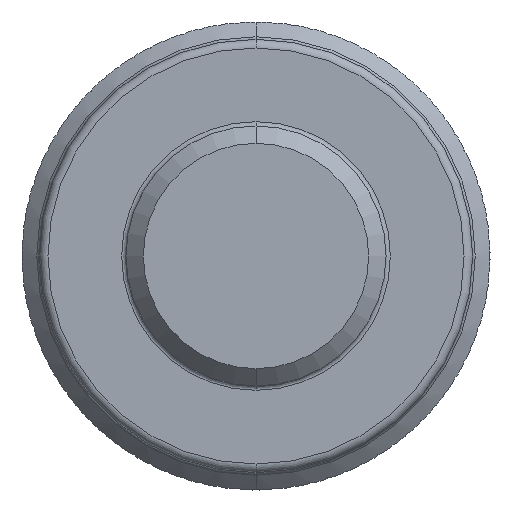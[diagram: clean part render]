
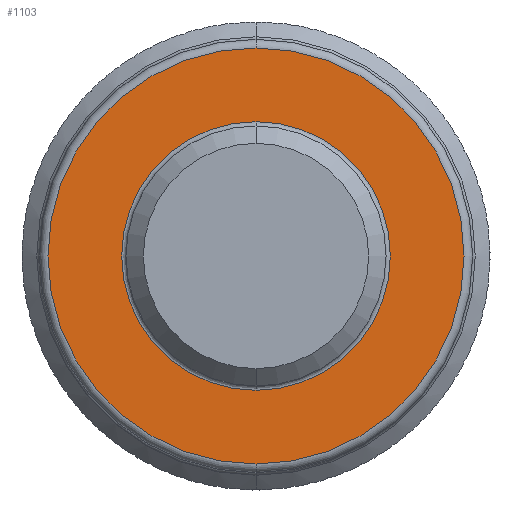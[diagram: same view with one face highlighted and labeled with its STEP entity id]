
A CAD part, front view. The second image highlights one B-rep face of the part: STEP entity #1103.
In plain terms, the highlighted planar face has unit normal (0, -1, 0).
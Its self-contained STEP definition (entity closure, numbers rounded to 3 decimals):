
#53 = CARTESIAN_POINT ( 'NONE',  ( 0., -3., 2.4 ) ) ;
#101 = EDGE_LOOP ( 'NONE', ( #9882, #1931 ) ) ;
#171 = ORIENTED_EDGE ( 'NONE', *, *, #2212, .T. ) ;
#248 = CARTESIAN_POINT ( 'NONE',  ( 1.5, -3., 0. ) ) ;
#261 = DIRECTION ( 'NONE',  ( 0., 0., -1. ) ) ;
#985 = CARTESIAN_POINT ( 'NONE',  ( 0., -3., 0. ) ) ;
#1103 = ADVANCED_FACE ( 'NONE', ( #3371, #5441 ), #2555, .T. ) ;
#1169 = VERTEX_POINT ( 'NONE', #53 ) ;
#1586 = CARTESIAN_POINT ( 'NONE',  ( 0., -3., 0. ) ) ;
#1626 = AXIS2_PLACEMENT_3D ( 'NONE', #6701, #6901, #5166 ) ;
#1651 = EDGE_CURVE ( 'NONE', #7058, #5138, #3111, .T. ) ;
#1931 = ORIENTED_EDGE ( 'NONE', *, *, #4201, .T. ) ;
#2212 = EDGE_CURVE ( 'NONE', #1169, #7399, #4339, .T. ) ;
#2487 = ORIENTED_EDGE ( 'NONE', *, *, #4885, .T. ) ;
#2555 = PLANE ( 'NONE',  #7555 ) ;
#2628 = DIRECTION ( 'NONE',  ( 0., 0., -1. ) ) ;
#2921 = CARTESIAN_POINT ( 'NONE',  ( 0., -3., 1.55 ) ) ;
#3040 = DIRECTION ( 'NONE',  ( 0., 0., -1. ) ) ;
#3111 = CIRCLE ( 'NONE', #1626, 1.55 ) ;
#3124 = AXIS2_PLACEMENT_3D ( 'NONE', #985, #9686, #2628 ) ;
#3371 = FACE_BOUND ( 'NONE', #101, .T. ) ;
#3442 = CIRCLE ( 'NONE', #7485, 1.55 ) ;
#3893 = DIRECTION ( 'NONE',  ( 0., 1., 0. ) ) ;
#4201 = EDGE_CURVE ( 'NONE', #5138, #7058, #3442, .T. ) ;
#4339 = CIRCLE ( 'NONE', #9966, 2.4 ) ;
#4885 = EDGE_CURVE ( 'NONE', #7399, #1169, #6519, .T. ) ;
#4989 = DIRECTION ( 'NONE',  ( 0., -1., 0. ) ) ;
#5138 = VERTEX_POINT ( 'NONE', #2921 ) ;
#5166 = DIRECTION ( 'NONE',  ( 0., 0., -1. ) ) ;
#5441 = FACE_OUTER_BOUND ( 'NONE', #6211, .T. ) ;
#5644 = DIRECTION ( 'NONE',  ( 0., -1., 0. ) ) ;
#6211 = EDGE_LOOP ( 'NONE', ( #2487, #171 ) ) ;
#6519 = CIRCLE ( 'NONE', #3124, 2.4 ) ;
#6701 = CARTESIAN_POINT ( 'NONE',  ( 0., -3., 0. ) ) ;
#6901 = DIRECTION ( 'NONE',  ( 0., 1., 0. ) ) ;
#7058 = VERTEX_POINT ( 'NONE', #8508 ) ;
#7399 = VERTEX_POINT ( 'NONE', #8244 ) ;
#7485 = AXIS2_PLACEMENT_3D ( 'NONE', #8535, #3893, #3040 ) ;
#7555 = AXIS2_PLACEMENT_3D ( 'NONE', #248, #5644, #9413 ) ;
#8244 = CARTESIAN_POINT ( 'NONE',  ( 0., -3., -2.4 ) ) ;
#8508 = CARTESIAN_POINT ( 'NONE',  ( 0., -3., -1.55 ) ) ;
#8535 = CARTESIAN_POINT ( 'NONE',  ( 0., -3., 0. ) ) ;
#9413 = DIRECTION ( 'NONE',  ( 0., 0., -1. ) ) ;
#9686 = DIRECTION ( 'NONE',  ( 0., -1., 0. ) ) ;
#9882 = ORIENTED_EDGE ( 'NONE', *, *, #1651, .T. ) ;
#9966 = AXIS2_PLACEMENT_3D ( 'NONE', #1586, #4989, #261 ) ;
